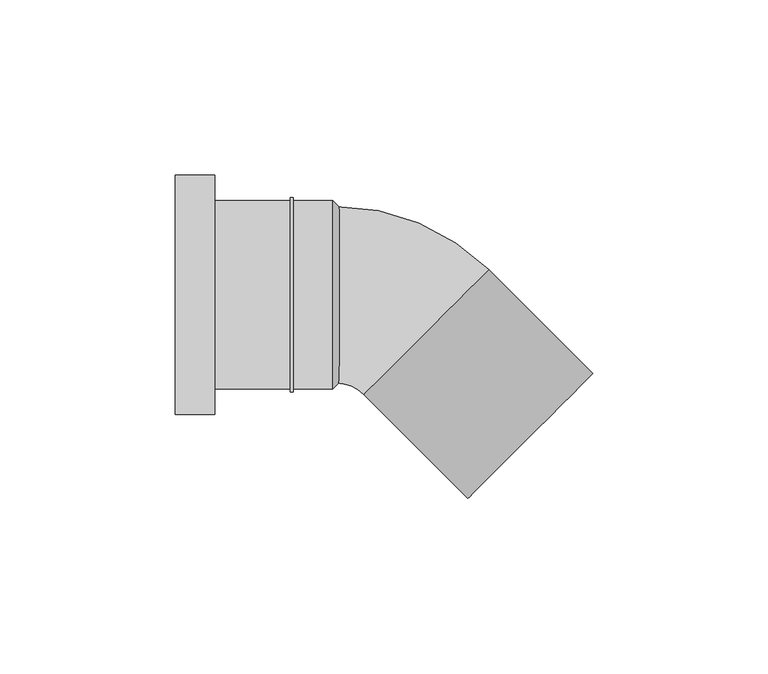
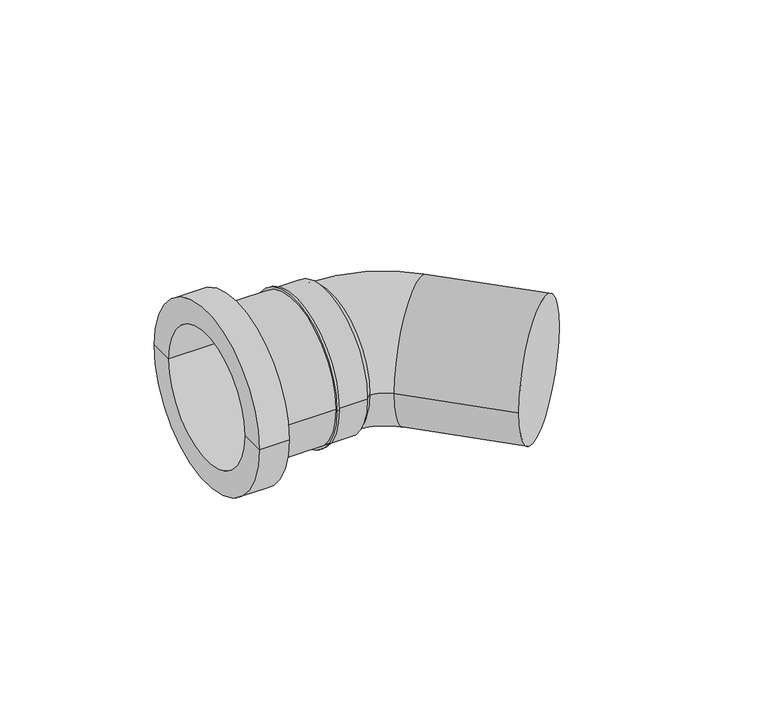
"""IFC4 building model written with IfcOpenShell, lengths in millimetres: pipe fitting geometry, UN_PIF_PP bend S-Sp_SH_PipeLife : Black, var. DN/OD (max. ø125, nested)."""

from ifc_helpers import new_model, si_unit, point, frame, origin, place, context, project, spatial, polyline, circle_curve, ellipse_curve, trimmed, source, transform, mapped, element, save
from ifc_brep_helpers import plane_surface, cylinder_surface, revolved_surface, advanced_brep


def pipe_fitting_76a2b272(model_context):
    return source(origin(), model_context, "Body", "AdvancedBrep", [
        advanced_brep(
        [(-14.15, -25.0, 0.0), (-16.0, -26.85, 0.0), (-16.0, 26.85, 0.0), (-14.15, 25.0, 0.0), (-60.9, -34.15, 0.0), (-60.9, -25.0, 0.0), (-60.9, 25.0, 0.0), (-60.9, 34.15, 0.0), (-49.675, -34.15, 0.0), (-49.675, 34.15, 0.0), (-49.675, -26.85, 0.0), (-49.675, 26.85, 0.0), (-28.075, -26.85, 0.0), (-28.075, 26.85, 0.0), (-28.075, -27.7, 0.0), (-28.075, 27.7, 0.0), (-27.225, -27.7, 0.0), (-27.225, 27.7, 0.0), (-27.225, -26.85, 0.0), (-27.225, 26.85, 0.0)],
        [
            (0, 1),
            (1, 2, circle_curve(frame((-16.0, 0.0, 0.0), z_axis=(1.0, 0.0, 0.0), x_axis=(0.0, 1.0, 0.0)), 26.85)),
            (2, 3),
            (3, 0, circle_curve(frame((-14.15, 0.0, 0.0), z_axis=(-1.0, 0.0, 0.0), x_axis=(0.0, 1.0, 0.0)), 25.0)),
            (2, 1, circle_curve(frame((-16.0, 0.0, 0.0), z_axis=(1.0, 0.0, 0.0), x_axis=(0.0, 1.0, 0.0)), 26.85)),
            (0, 3, circle_curve(frame((-14.15, 0.0, 0.0), z_axis=(-1.0, 0.0, 0.0), x_axis=(0.0, 1.0, 0.0)), 25.0)),
            (4, 5),
            (5, 6, circle_curve(frame((-60.9, 0.0, 0.0), z_axis=(1.0, 0.0, 0.0), x_axis=(0.0, 1.0, 0.0)), 25.0)),
            (6, 7),
            (7, 4, circle_curve(frame((-60.9, 0.0, 0.0), z_axis=(-1.0, 0.0, 0.0), x_axis=(0.0, 1.0, 0.0)), 34.15)),
            (6, 5, circle_curve(frame((-60.9, 0.0, 0.0), z_axis=(1.0, 0.0, 0.0), x_axis=(0.0, 1.0, 0.0)), 25.0)),
            (4, 7, circle_curve(frame((-60.9, 0.0, 0.0), z_axis=(-1.0, 0.0, 0.0), x_axis=(0.0, 1.0, 0.0)), 34.15)),
            (8, 4),
            (7, 9),
            (9, 8, circle_curve(frame((-49.675, 0.0, 0.0), z_axis=(-1.0, 0.0, 0.0), x_axis=(0.0, 1.0, 0.0)), 34.15)),
            (8, 9, circle_curve(frame((-49.675, 0.0, 0.0), z_axis=(-1.0, 0.0, 0.0), x_axis=(0.0, 1.0, 0.0)), 34.15)),
            (10, 8),
            (9, 11),
            (11, 10, circle_curve(frame((-49.675, 0.0, 0.0), z_axis=(-1.0, 0.0, 0.0), x_axis=(0.0, 1.0, 0.0)), 26.85)),
            (10, 11, circle_curve(frame((-49.675, 0.0, 0.0), z_axis=(-1.0, 0.0, 0.0), x_axis=(0.0, 1.0, 0.0)), 26.85)),
            (12, 10),
            (11, 13),
            (13, 12, circle_curve(frame((-28.075, 0.0, 0.0), z_axis=(-1.0, 0.0, 0.0), x_axis=(0.0, 1.0, 0.0)), 26.85)),
            (12, 13, circle_curve(frame((-28.075, 0.0, 0.0), z_axis=(-1.0, 0.0, 0.0), x_axis=(0.0, 1.0, 0.0)), 26.85)),
            (14, 12),
            (13, 15),
            (15, 14, circle_curve(frame((-28.075, 0.0, 0.0), z_axis=(-1.0, 0.0, 0.0), x_axis=(0.0, 1.0, 0.0)), 27.7)),
            (14, 15, circle_curve(frame((-28.075, 0.0, 0.0), z_axis=(-1.0, 0.0, 0.0), x_axis=(0.0, 1.0, 0.0)), 27.7)),
            (16, 14),
            (15, 17),
            (17, 16, circle_curve(frame((-27.225, 0.0, 0.0), z_axis=(-1.0, 0.0, 0.0), x_axis=(0.0, 1.0, 0.0)), 27.7)),
            (16, 17, circle_curve(frame((-27.225, 0.0, 0.0), z_axis=(-1.0, 0.0, 0.0), x_axis=(0.0, 1.0, 0.0)), 27.7)),
            (18, 16),
            (17, 19),
            (19, 18, circle_curve(frame((-27.225, 0.0, 0.0), z_axis=(-1.0, 0.0, 0.0), x_axis=(0.0, 1.0, 0.0)), 26.85)),
            (18, 19, circle_curve(frame((-27.225, 0.0, 0.0), z_axis=(-1.0, 0.0, 0.0), x_axis=(0.0, 1.0, 0.0)), 26.85)),
            (1, 18),
            (19, 2),
            (5, 0),
            (3, 6),
        ],
        [
            revolved_surface(polyline([(-16.0, 26.85, 0.0), (-14.15, 25.0, 0.0)]), (-60.9, 0.0, 0.0), (1.0, 0.0, 0.0)),
            plane_surface(frame((-60.9, 0.0, 0.0), z_axis=(-1.0, 0.0, 0.0), x_axis=(0.0, 1.0, 0.0))),
            cylinder_surface(frame((-60.9, 0.0, 0.0), z_axis=(1.0, 0.0, 0.0), x_axis=(0.0, 1.0, 0.0)), 34.15),
            plane_surface(frame((-49.675, 0.0, 0.0), z_axis=(1.0, 0.0, 0.0), x_axis=(0.0, 1.0, 0.0))),
            cylinder_surface(frame((-60.9, 0.0, 0.0), z_axis=(1.0, 0.0, 0.0), x_axis=(0.0, 1.0, 0.0)), 26.85),
            plane_surface(frame((-28.075, 0.0, 0.0), z_axis=(-1.0, 0.0, 0.0), x_axis=(0.0, 1.0, 0.0))),
            cylinder_surface(frame((-60.9, 0.0, 0.0), z_axis=(1.0, 0.0, 0.0), x_axis=(0.0, 1.0, 0.0)), 27.7),
            plane_surface(frame((-27.225, 0.0, 0.0), z_axis=(1.0, 0.0, 0.0), x_axis=(0.0, 1.0, 0.0))),
            revolved_surface(polyline([(-14.149999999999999, 25.0, 0.0), (-60.9, 25.0, 0.0)]), (-60.9, 0.0, 0.0), (1.0, 0.0, 0.0)),
        ],
        [
            (0, [[1, 2, 3, 4]]),
            (0, [[-3, 5, -1, 6]]),
            (1, [[7, 8, 9, 10]]),
            (1, [[-9, 11, -7, 12]]),
            (2, [[13, -10, 14, 15]]),
            (2, [[-14, -12, -13, 16]]),
            (3, [[17, -15, 18, 19]]),
            (3, [[-18, -16, -17, 20]]),
            (4, [[21, -19, 22, 23]]),
            (4, [[-22, -20, -21, 24]]),
            (5, [[25, -23, 26, 27]]),
            (5, [[-26, -24, -25, 28]]),
            (6, [[29, -27, 30, 31]]),
            (6, [[-30, -28, -29, 32]]),
            (7, [[33, -31, 34, 35]]),
            (7, [[-34, -32, -33, 36]]),
            (4, [[37, -35, 38, -2]]),
            (4, [[-38, -36, -37, -5]]),
            (8, [[39, -4, 40, -8]]),
            (8, [[-40, -6, -39, -11]]),
        ],
    ),
        advanced_brep(
        [(-16.0, 25.2, 0.0), (-16.0, -25.2, 0.0), (-15.0, -25.2, 0.0), (-15.0, 25.2, 0.0), (-7.2124892, -28.4256926, 0.0), (28.4256926, 7.2124892, 0.0), (58.1241774, -22.4859956, 0.0), (22.4859956, -58.1241774, 0.0)],
        [
            (0, 1, circle_curve(frame((-16.0, 0.0, 0.0), z_axis=(-1.0, 0.0, 0.0), x_axis=(0.0, -1.0, 0.0)), 25.2)),
            (1, 0, circle_curve(frame((-16.0, 0.0, 0.0), z_axis=(-1.0, 0.0, 0.0), x_axis=(0.0, -1.0, 0.0)), 25.2)),
            (1, 2),
            (2, 3, circle_curve(frame((-15.0, 0.0, 0.0), z_axis=(-1.0, 0.0, 0.0), x_axis=(0.0, -1.0, 0.0)), 25.2)),
            (3, 0),
            (3, 2, circle_curve(frame((-15.0, 0.0, 0.0), z_axis=(-1.0, 0.0, 0.0), x_axis=(0.0, -1.0, 0.0)), 25.2)),
            (4, 5, circle_curve(frame((10.6066017, -10.6066017, 0.0), z_axis=(-0.7071067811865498, 0.7071067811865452, 0.0), x_axis=(-0.7071067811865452, -0.7071067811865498, 0.0)), 25.2)),
            (5, 3, circle_curve(frame((-15.0, -36.2132034, 0.0), z_axis=(0.0, 0.0, 1.0), x_axis=(0.0, 1.0, 0.0)), 61.4132034)),
            (2, 4, circle_curve(frame((-15.0, -36.2132034, 0.0), z_axis=(0.0, 0.0, -1.0), x_axis=(0.0, 1.0, 0.0)), 11.0132034)),
            (5, 4, circle_curve(frame((10.6066017, -10.6066017, 0.0), z_axis=(-0.7071067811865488, 0.7071067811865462, 0.0), x_axis=(-0.7071067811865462, -0.7071067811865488, 0.0)), 25.2)),
            (6, 7, circle_curve(frame((40.3050865, -40.3050865, 0.0), z_axis=(0.7071067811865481, -0.7071067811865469, 0.0), x_axis=(-0.7071067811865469, -0.7071067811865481, 0.0)), 25.2)),
            (7, 6, circle_curve(frame((40.3050865, -40.3050865, 0.0), z_axis=(0.7071067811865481, -0.7071067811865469, 0.0), x_axis=(-0.7071067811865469, -0.7071067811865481, 0.0)), 25.2)),
            (4, 7),
            (6, 5),
        ],
        [
            plane_surface(frame((-16.0, 0.0, 0.0), z_axis=(-1.0, 0.0, 0.0), x_axis=(0.0, 0.0, 1.0))),
            cylinder_surface(frame((-16.0, 0.0, 0.0), z_axis=(-1.0, 0.0, 0.0), x_axis=(0.0, -1.0, 0.0)), 25.2),
            revolved_surface(trimmed(ellipse_curve(frame((-15.0, 0.0, 0.0), z_axis=(1.0, 0.0, 0.0), x_axis=(0.0, -1.0, 0.0)), 25.2, 25.2), [point((-15.0, 25.2, 0.0))], [point((-15.0, -25.2, 0.0))], True, "CARTESIAN"), (-15.0, -36.2132034, 0.0), (0.0, 0.0, 1.0)),
            revolved_surface(trimmed(ellipse_curve(frame((-15.0, 0.0, 0.0), z_axis=(1.0, 0.0, 0.0), x_axis=(0.0, -1.0, 0.0)), 25.2, 25.2), [point((-15.0, -25.2, 0.0))], [point((-15.0, 25.2, 0.0))], True, "CARTESIAN"), (-15.0, -36.2132034, 0.0), (0.0, 0.0, 1.0)),
            plane_surface(frame((40.3050865, -40.3050865, 0.0), z_axis=(0.7071067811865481, -0.7071067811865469, 0.0), x_axis=(0.0, 0.0, 1.0))),
            cylinder_surface(frame((10.6066017, -10.6066017, 0.0), z_axis=(-0.7071067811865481, 0.7071067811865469, 0.0), x_axis=(-0.7071067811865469, -0.7071067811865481, 0.0)), 25.2),
        ],
        [
            (0, [[1, 2]]),
            (1, [[3, 4, 5, -2]]),
            (1, [[-5, 6, -3, -1]]),
            (2, [[7, 8, -4, 9]]),
            (3, [[10, -9, -6, -8]]),
            (4, [[11, 12]]),
            (5, [[13, -11, 14, -7]]),
            (5, [[-14, -12, -13, -10]]),
        ],
    ),
    ])


if __name__ == "__main__":
    model = new_model("IFC4")
    model_context = context("Model", 3, world=origin())
    ifc_project = project(units=[si_unit("LENGTHUNIT", "METRE", prefix="MILLI")], contexts=[model_context])
    site = spatial("IfcSite", under=ifc_project)
    building = spatial("IfcBuilding", under=site)
    placement = place(None, origin())
    pipe_fitting_shape = pipe_fitting_76a2b272(model_context)
    element("IfcPipeFitting", 1, ObjectType="UN_PIF_PP bend S-Sp_SH_PipeLife : Black, var. DN/OD (max. ø125, nested)", at=placement, inside=building, context=model_context, shape_type="MappedRepresentation", body=[
        mapped(pipe_fitting_shape, transform((0.0, 0.0, 0.0), x_axis=(1.0, 0.0, 0.0), y_axis=(0.0, 1.0, 0.0), z_axis=(0.0, 0.0, 1.0))),
    ])
    save(model, "model.ifc")
